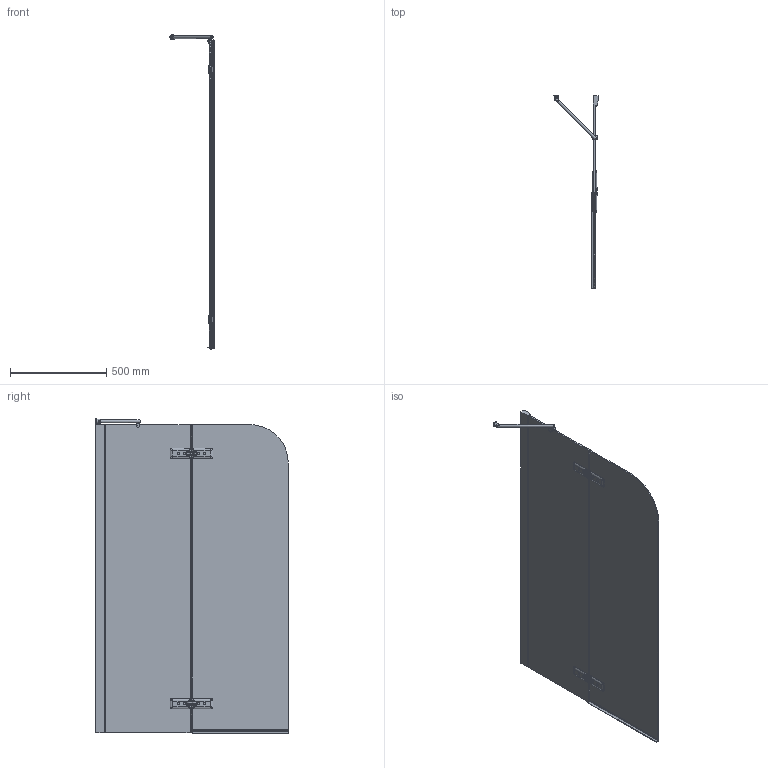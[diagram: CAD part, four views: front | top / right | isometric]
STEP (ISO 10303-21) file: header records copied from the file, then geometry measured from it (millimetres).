
FILE_DESCRIPTION(/* description */ (''),/* implementation_level */ '2;1');
FILE_NAME(/* name */ 'E:\Работа\Сергей\Душевые кабинки\! Работа\!!!!!!!!!!!!\TREND PEARL GV-862AP\TREND PEARL GV-862AP правая модель\TREND PEARL GV-862AP ПРАВАЯ-3D.stp',/* time_stamp */ '2018-03-23T21:08:54+03:00',/* author */ ('PC'),/* organization */ (''),/* preprocessor_version */ 'ST-DEVELOPER v15.2',/* originating_system */ 'Autodesk Inventor 2014',/* authorisation */ '');
FILE_SCHEMA (('AUTOMOTIVE_DESIGN { 1 0 10303 214 3 1 1 }'));
Products named in the file (1): TREND PEARL GV-862AP ПРАВАЯ-
3D
Bounding box: 229.2 x 1000.14 x 1633.89 mm (x, y, z)
Volume: 12870980.3 mm3; surface area: 3399104.7 mm2
Topology: 7 solids, 7 shells, 915 faces, 2550 edges, 1628 vertices
Faces by surface type: plane 545, cylinder 229, bspline 104, cone 18, sphere 10, torus 9
Full cylindrical faces by diameter (mm): 6 x2, 9 x8, 12 x1, 13 x2, 15 x1, 20 x2, 26 x1
Entity records: 44612 total; most frequent: CARTESIAN_POINT 20809, ORIENTED_EDGE 4934, DIRECTION 4580, EDGE_CURVE 2467, VERTEX_POINT 1608, AXIS2_PLACEMENT_3D 1548, LINE 1484, VECTOR 1484
